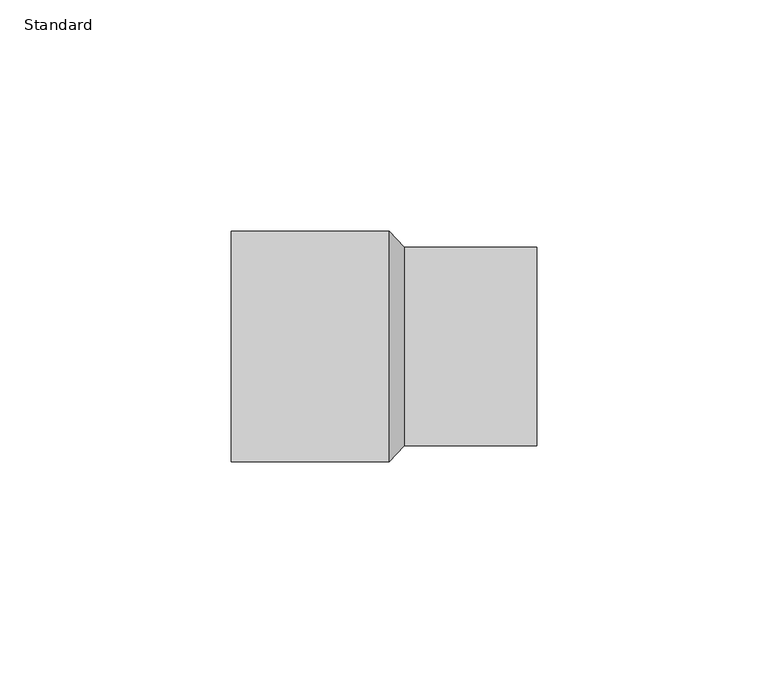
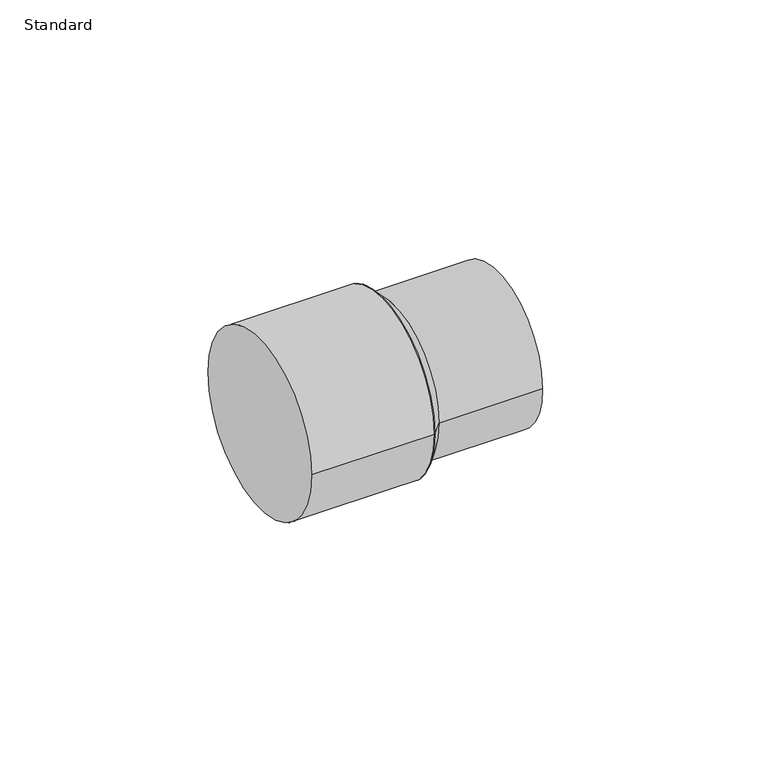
"""IFC4 building model written with IfcOpenShell, lengths in millimetres: pipe fitting geometry, M_Coupling Reducing - CPVC - Sch 40 : Standard."""

from ifc_helpers import new_model, si_unit, point, frame, origin, origin_2d, place, context, project, spatial, polyline, circle_curve, trimmed, segment, composite_curve, outline, extrude, source, transform, mapped, element, save
from ifc_brep_helpers import plane_surface, revolved_surface, advanced_brep


def standard_a38854e5(model_context):
    return source(origin(), model_context, "Body", "SolidModel", [
        advanced_brep(
        [(37.416875, 21.463, 0.0), (37.416875, -21.463, 0.0), (34.241875, 24.9149219, 0.0), (34.241875, -24.9149219, 0.0)],
        [
            (0, 1, circle_curve(frame((37.416875, 0.0, 0.0), z_axis=(1.0, 4.273914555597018e-12, 0.0), x_axis=(4.273983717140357e-12, -1.0, 0.0)), 21.463)),
            (1, 0, circle_curve(frame((37.416875, 0.0, 0.0), z_axis=(1.0, 4.273914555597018e-12, 0.0), x_axis=(-4.273983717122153e-12, 1.0, 0.0)), 21.463)),
            (2, 3, circle_curve(frame((34.241875, 0.0, 0.0), z_axis=(-1.0, -4.273914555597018e-12, 0.0), x_axis=(-4.273983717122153e-12, 1.0, 0.0)), 24.9149219)),
            (3, 2, circle_curve(frame((34.241875, 0.0, 0.0), z_axis=(-1.0, -4.273914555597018e-12, 0.0), x_axis=(4.273983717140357e-12, -1.0, 0.0)), 24.9149219)),
            (2, 0),
            (1, 3),
        ],
        [
            plane_surface(frame((37.416875, 0.0, 0.0), z_axis=(1.0, 0.0, 0.0), x_axis=(0.0, 0.0, -1.0))),
            plane_surface(frame((34.241875, 0.0, 0.0), z_axis=(-1.0, 0.0, 0.0), x_axis=(0.0, 0.0, -1.0))),
            revolved_surface(polyline([(37.416875, 21.46300001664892, 0.0), (34.24187499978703, 24.914921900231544, 0.0)]), (57.158059, 0.0, 0.0), (-1.0, -4.273914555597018e-12, 0.0)),
            revolved_surface(polyline([(37.41687500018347, -21.463000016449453, 0.0), (34.241875, -24.9149219, 0.0)]), (57.158059, 0.0, 0.0), (-1.0, -4.273914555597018e-12, 0.0)),
        ],
        [
            (0, [[1, 2]]),
            (1, [[3, 4]]),
            (2, [[5, -2, 6, -3]]),
            (3, [[-6, -1, -5, -4]]),
        ],
    ),
        extrude(outline(composite_curve([segment(trimmed(circle_curve(origin_2d(), 21.463), [point((21.463, 0.0))], [point((-21.463, 0.0))], False, "CARTESIAN"), True, "CONTINUOUS"), segment(trimmed(circle_curve(origin_2d(), 21.463), [point((-21.463, 0.0))], [point((21.463, 0.0))], False, "CARTESIAN"), True, "CONTINUOUS")], self_intersect=False)), frame((37.416875, 0.0, 0.0), z_axis=(1.0, 0.0, 0.0), x_axis=(0.0, 1.0, 0.0)), (0.0, 0.0, 1.0), 28.702),
        extrude(outline(composite_curve([segment(trimmed(circle_curve(origin_2d(), 24.9149219), [point((24.9149219, 0.0))], [point((-24.9149219, 0.0))], False, "CARTESIAN"), True, "CONTINUOUS"), segment(trimmed(circle_curve(origin_2d(), 24.9149219), [point((-24.9149219, 0.0))], [point((24.9149219, 0.0))], False, "CARTESIAN"), True, "CONTINUOUS")], self_intersect=False)), frame((0.0, 0.0, 0.0), z_axis=(1.0, 0.0, 0.0), x_axis=(0.0, 1.0, 0.0)), (0.0, 0.0, 1.0), 34.241875),
    ])


if __name__ == "__main__":
    model = new_model("IFC4")
    model_context = context("Model", 3, world=origin())
    ifc_project = project(units=[si_unit("LENGTHUNIT", "METRE", prefix="MILLI")], contexts=[model_context])
    site = spatial("IfcSite", under=ifc_project)
    building = spatial("IfcBuilding", under=site)
    placement = place(None, origin())
    standard_shape = standard_a38854e5(model_context)
    element("IfcPipeFitting", 1, ObjectType="M_Coupling Reducing - CPVC - Sch 40 : Standard", at=placement, inside=building, context=model_context, shape_type="MappedRepresentation", body=[
        mapped(standard_shape, transform((0.0, 0.0, 0.0), x_axis=(1.0, 0.0, 0.0), y_axis=(0.0, 1.0, 0.0), z_axis=(0.0, 0.0, 1.0))),
    ])
    save(model, "model.ifc")
